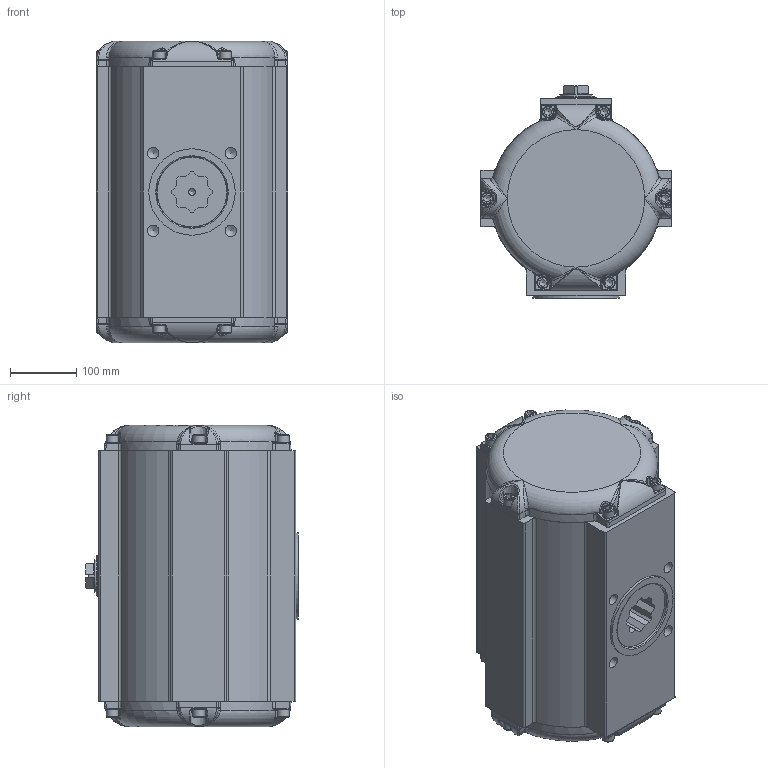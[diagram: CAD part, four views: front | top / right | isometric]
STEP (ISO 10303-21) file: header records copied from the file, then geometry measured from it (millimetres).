
FILE_DESCRIPTION((''),'2;1');
FILE_NAME('Y:\DOKUMENTATION ANTRIEBSPROGRAMM\AKTUELLES ANTRIEBSPROGRAMM\BR03_SAD_SAF_90°_Standard\STEP-Dateien\43\SAD 43 BR03.stp','2018-09-10T08:16:31',('mkl'),(''),'Autodesk Inventor 2013','Autodesk Inventor 2013','');
FILE_SCHEMA(('AUTOMOTIVE_DESIGN { 1 0 10303 214 1 1 1 1 }'));
Length unit declared in the file: millimetre
Products named in the file (1): ENG-074553_Shrinkwrap_1
Bounding box: 288 x 320 x 453 mm (x, y, z)
Surface area: 656855.7 mm2 (no closed solid volume)
Topology: 0 solids, 28 shells, 549 faces, 1800 edges, 1201 vertices
Faces by surface type: plane 207, cylinder 148, bspline 105, cone 48, torus 41
Full cylindrical faces by diameter (mm): 2.5 x2, 4.134 x4, 4.917 x5, 8.376 x2, 17.294 x4, 18 x12, 18.631 x2, 37 x1, 49.6 x1, 106 x1, 130 x1
Entity records: 24861 total; most frequent: CARTESIAN_POINT 10307, ORIENTED_EDGE 2728, DIRECTION 2589, EDGE_CURVE 1670, VERTEX_POINT 1164, AXIS2_PLACEMENT_3D 1010, EDGE_LOOP 679, VECTOR 569
